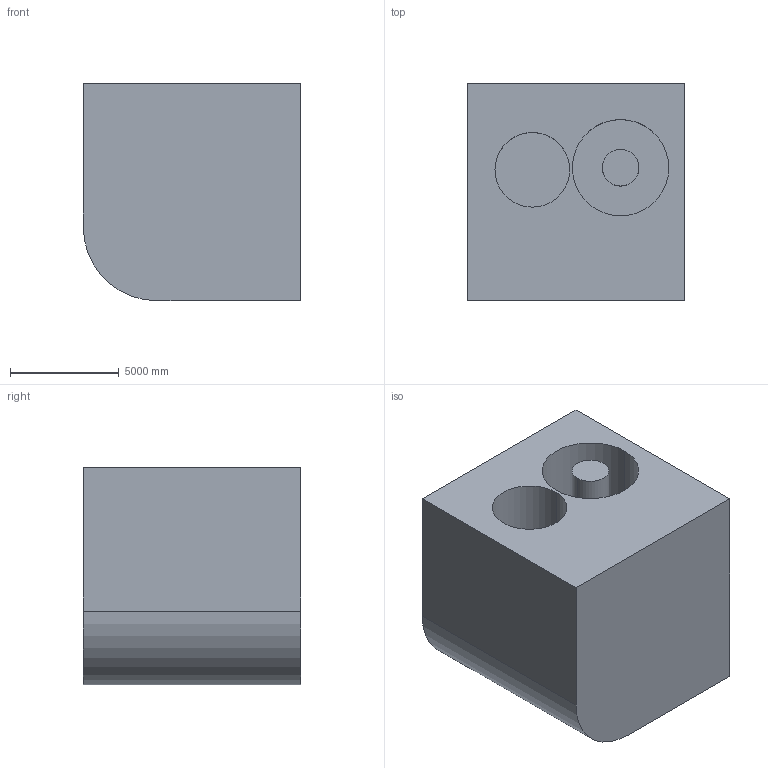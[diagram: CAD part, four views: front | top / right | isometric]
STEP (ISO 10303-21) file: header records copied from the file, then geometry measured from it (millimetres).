
FILE_DESCRIPTION (( 'STEP AP203' ), '1' );
FILE_NAME ('78.STEP', '2022-08-31T11:26:12', ( 'user' ), ( '' ), 'SwSTEP 2.0', 'SolidWorks 2021', '' );
FILE_SCHEMA (( 'CONFIG_CONTROL_DESIGN' ));
Length unit declared in the file: centimetre
Products named in the file (1): 78
Bounding box: 10000 x 10000 x 10000 mm (x, y, z)
Volume: 858638485269 mm3; surface area: 747624438.5 mm2
Topology: 1 solids, 1 shells, 23 faces, 51 edges, 34 vertices
Faces by surface type: plane 16, cylinder 7
Entity records: 716 total; most frequent: DIRECTION 113, CARTESIAN_POINT 109, ORIENTED_EDGE 102, EDGE_CURVE 51, AXIS2_PLACEMENT_3D 38, VECTOR 37, LINE 37, VERTEX_POINT 34
